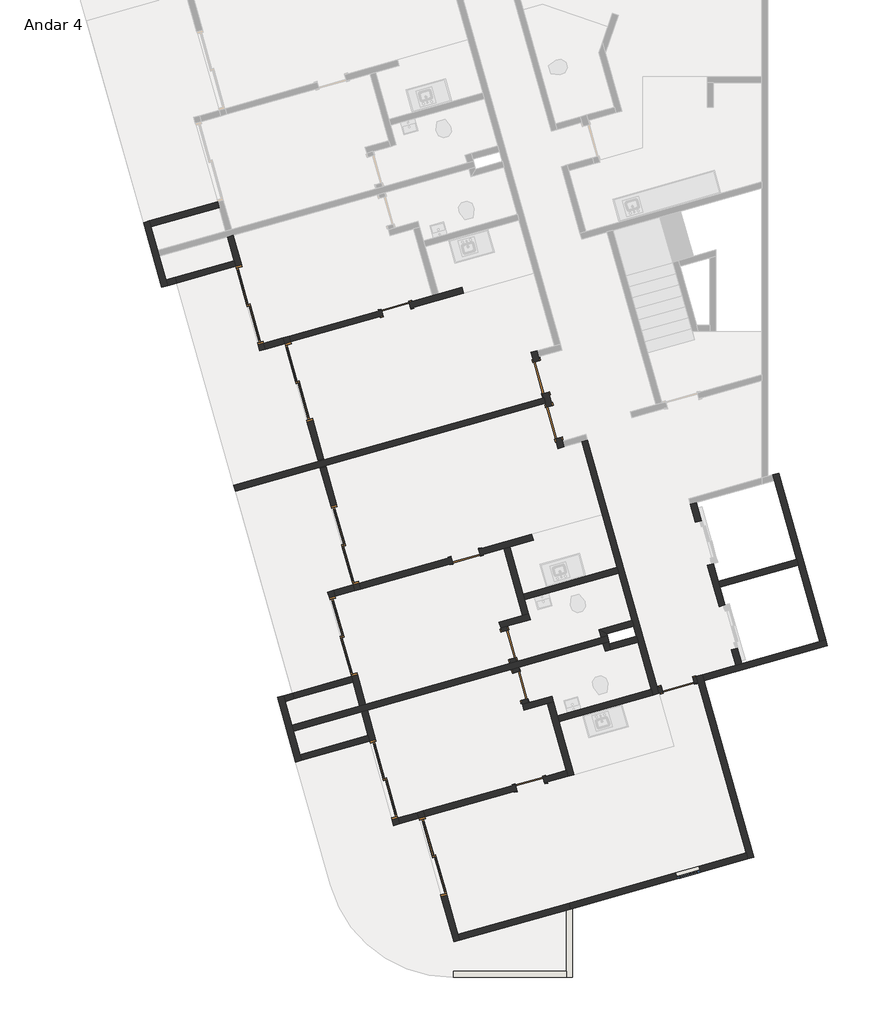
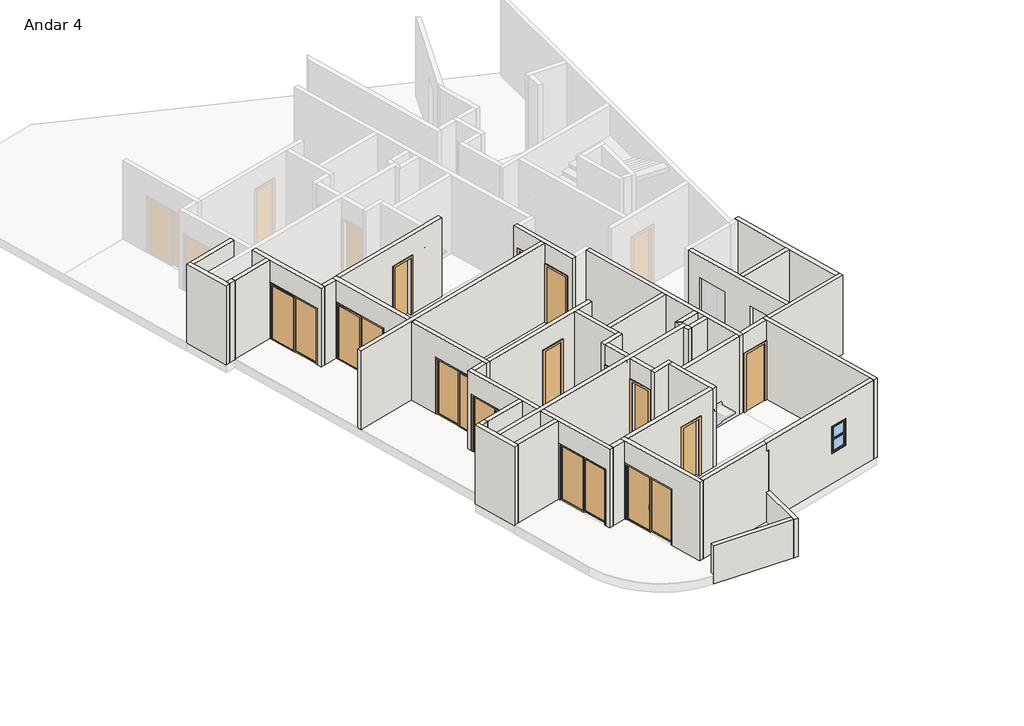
# One storey, part 1 of 3: 46 walls, 14 doors, 1 window.
"""IFC4 building model written with IfcOpenShell, lengths in millimetres."""

from ifc_helpers import new_model, si_unit, frame, origin, place, context, project, spatial, polyline, outline, extrude, faceted_brep, transform, mapped, element, save
from components import p2_80cm_9d4be4ef, p2_80cm_083652d6, p3_70cm_ef4d15e3, p3_70cm_0a698c7c, p4_correr_200cm_eaaa0877, p4_correr_200cm_830b8f20, bx_60cm_cef95a5c

model = new_model("IFC4")

# Units and contexts
model_context = context("Model", 3, world=origin())
ifc_project = project(units=[si_unit("LENGTHUNIT", "METRE", prefix="MILLI")], contexts=[model_context])

# Site, building, storey
site = spatial("IfcSite", under=ifc_project)
building = spatial("IfcBuilding", under=site)
storey = spatial("IfcBuildingStorey", under=building, Name="Andar 4", Elevation=62350.0)

# Doors
placement = place(None, origin())
p2_80cm_shape = p2_80cm_9d4be4ef(model_context)
element("IfcDoor", 1, ObjectType="M_Folha única1 : P2 - 80CM", at=placement, inside=storey, context=model_context, shape_type="MappedRepresentation", body=[
    mapped(p2_80cm_shape, transform((-80566.3456776, 19693.5423602, 62350.0), x_axis=(0.2717679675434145, -0.9623628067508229, 0.0), y_axis=(0.9623628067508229, 0.2717679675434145, 0.0), z_axis=(0.0, 0.0, 1.0))),
])
element("IfcDoor", 2, ObjectType="M_Folha única1 : P2 - 80CM", at=placement, inside=storey, context=model_context, shape_type="MappedRepresentation", body=[
    mapped(p2_80cm_shape, transform((-77213.6668366, 12144.847648, 62350.0), x_axis=(0.9623628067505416, 0.2717679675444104, 0.0), y_axis=(-0.2717679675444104, 0.9623628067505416, 0.0), z_axis=(0.0, 0.0, 1.0))),
])
p2_80cm_2_shape = p2_80cm_083652d6(model_context)
element("IfcDoor", 3, ObjectType="M_Folha única1 : P2 - 80CM", at=placement, inside=storey, context=model_context, shape_type="MappedRepresentation", body=[
    mapped(p2_80cm_2_shape, transform((-80253.8125149, 18586.8251325, 62350.0), x_axis=(-0.2717679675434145, 0.9623628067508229, 0.0), y_axis=(-0.9623628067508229, -0.2717679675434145, 0.0), z_axis=(0.0, 0.0, 1.0))),
])
p3_70cm_shape = p3_70cm_ef4d15e3(model_context)
element("IfcDoor", 4, ObjectType="M_Folha única1 : P3 - 70CM", at=placement, inside=storey, context=model_context, shape_type="MappedRepresentation", body=[
    mapped(p3_70cm_shape, transform((-84129.1775441, 21363.1168842, 62350.0), x_axis=(0.9623628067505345, 0.27176796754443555, 0.0), y_axis=(-0.27176796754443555, 0.9623628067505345, 0.0), z_axis=(0.0, 0.0, 1.0))),
])
element("IfcDoor", 5, ObjectType="M_Folha única1 : P3 - 70CM", at=placement, inside=storey, context=model_context, shape_type="MappedRepresentation", body=[
    mapped(p3_70cm_shape, transform((-80840.7851368, 9718.5269225, 62350.0), x_axis=(0.9623628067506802, 0.2717679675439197, 0.0), y_axis=(-0.2717679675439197, 0.9623628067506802, 0.0), z_axis=(0.0, 0.0, 1.0))),
])
element("IfcDoor", 6, ObjectType="M_Folha única1 : P3 - 70CM", at=placement, inside=storey, context=model_context, shape_type="MappedRepresentation", body=[
    mapped(p3_70cm_shape, transform((-81362.5862327, 13130.1209218, 62350.0), x_axis=(0.27176796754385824, -0.9623628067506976, 0.0), y_axis=(0.9623628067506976, 0.27176796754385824, 0.0), z_axis=(0.0, 0.0, 1.0))),
])
p3_70cm_2_shape = p3_70cm_0a698c7c(model_context)
element("IfcDoor", 7, ObjectType="M_Folha única1 : P3 - 70CM", at=placement, inside=storey, context=model_context, shape_type="MappedRepresentation", body=[
    mapped(p3_70cm_2_shape, transform((-81077.2298668, 12119.6399747, 62350.0), x_axis=(-0.27176796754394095, 0.9623628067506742, 0.0), y_axis=(-0.9623628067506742, -0.27176796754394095, 0.0), z_axis=(0.0, 0.0, 1.0))),
])
element("IfcDoor", 8, ObjectType="M_Folha única1 : P3 - 70CM", at=placement, inside=storey, context=model_context, shape_type="MappedRepresentation", body=[
    mapped(p3_70cm_2_shape, transform((-82417.0393485, 15300.2312016, 62350.0), x_axis=(0.9623628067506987, 0.2717679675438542, 0.0), y_axis=(-0.2717679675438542, 0.9623628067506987, 0.0), z_axis=(0.0, 0.0, 1.0))),
])
p4_correr_200cm_shape = p4_correr_200cm_eaaa0877(model_context)
element("IfcDoor", 9, ObjectType="Porta de correr dupla envidraçada sem revestimento : P4 - CORRER - 200CM", at=placement, inside=storey, context=model_context, shape_type="MappedRepresentation", body=[
    mapped(p4_correr_200cm_shape, transform((-86511.4049952, 19573.3416554, 62350.0), x_axis=(0.2717679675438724, -0.9623628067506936, 0.0), y_axis=(0.9623628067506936, 0.2717679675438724, 0.0), z_axis=(0.0, 0.0, 1.0))),
])
element("IfcDoor", 10, ObjectType="Porta de correr dupla envidraçada sem revestimento : P4 - CORRER - 200CM", at=placement, inside=storey, context=model_context, shape_type="MappedRepresentation", body=[
    mapped(p4_correr_200cm_shape, transform((-87717.4207223, 21466.8516126, 62350.0), x_axis=(0.2717679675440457, -0.9623628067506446, 0.0), y_axis=(0.9623628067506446, 0.2717679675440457, 0.0), z_axis=(0.0, 0.0, 1.0))),
])
element("IfcDoor", 11, ObjectType="Porta de correr dupla envidraçada sem revestimento : P4 - CORRER - 200CM", at=placement, inside=storey, context=model_context, shape_type="MappedRepresentation", body=[
    mapped(p4_correr_200cm_shape, transform((-84429.028315, 9822.2616509, 62350.0), x_axis=(-0.27176796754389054, 0.9623628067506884, 0.0), y_axis=(-0.9623628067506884, -0.27176796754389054, 0.0), z_axis=(0.0, 0.0, 1.0))),
])
element("IfcDoor", 12, ObjectType="Porta de correr dupla envidraçada sem revestimento : P4 - CORRER - 200CM", at=placement, inside=storey, context=model_context, shape_type="MappedRepresentation", body=[
    mapped(p4_correr_200cm_shape, transform((-83223.012588, 7928.7516937, 62350.0), x_axis=(-0.2717679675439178, 0.9623628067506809, 0.0), y_axis=(-0.9623628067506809, -0.2717679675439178, 0.0), z_axis=(0.0, 0.0, 1.0))),
])
p4_correr_200cm_2_shape = p4_correr_200cm_830b8f20(model_context)
element("IfcDoor", 13, ObjectType="Porta de correr dupla envidraçada sem revestimento : P4 - CORRER - 200CM", at=placement, inside=storey, context=model_context, shape_type="MappedRepresentation", body=[
    mapped(p4_correr_200cm_2_shape, transform((-85383.5679299, 15579.5360073, 62350.0), x_axis=(-0.2717679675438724, 0.9623628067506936, 0.0), y_axis=(-0.9623628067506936, -0.2717679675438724, 0.0), z_axis=(0.0, 0.0, 1.0))),
])
element("IfcDoor", 14, ObjectType="Porta de correr dupla envidraçada sem revestimento : P4 - CORRER - 200CM", at=placement, inside=storey, context=model_context, shape_type="MappedRepresentation", body=[
    mapped(p4_correr_200cm_2_shape, transform((-85420.9813965, 13334.8858955, 62350.0), x_axis=(-0.27176796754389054, 0.9623628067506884, 0.0), y_axis=(-0.9623628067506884, -0.27176796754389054, 0.0), z_axis=(0.0, 0.0, 1.0))),
])

# Walls
element("IfcWall", 15, ObjectType="Básica .15 - Externa", at=placement, inside=storey, context=model_context, shape_type="Brep", body=[
    faceted_brep([(-75344.9919691, 7919.3931149, 62350.0), (-76567.7484146, 12249.3196164, 62350.0), (-76608.5136097, 12393.6740374, 62350.0), (-76608.5136097, 12393.6740374, 65250.0), (-76567.7484146, 12249.3196164, 65250.0), (-75344.9919691, 7919.3931149, 65250.0), (-75489.3463901, 7878.6279198, 62350.0), (-75489.3463901, 7878.6279198, 65250.0), (-75530.1115852, 8022.9823408, 65250.0), (-76712.1028356, 12208.5544213, 65250.0), (-76752.8680308, 12352.9088423, 65250.0), (-76752.8680308, 12352.9088423, 62350.0), (-76712.1028356, 12208.5544213, 62350.0), (-75530.1115852, 8022.9823408, 62350.0)], [[[0, 1, 2, 3, 4, 5]], [[6, 7, 8, 9, 10, 11, 12, 13]], [[2, 1, 0, 6, 13, 12, 11]], [[5, 4, 3, 10, 9, 8, 7]], [[0, 5, 7, 6]], [[3, 2, 11, 10]]]),
])
element("IfcWall", 16, ObjectType="Básica .15 -  Interna", at=placement, inside=storey, context=model_context, shape_type="Brep", body=[
    faceted_brep([(-80529.815701, 19288.21464, 62350.0), (-80502.6389043, 19191.9783593, 62350.0), (-80461.8737092, 19047.6239383, 62350.0), (-80434.6969124, 18951.3876576, 62350.0), (-80434.6969124, 18951.3876576, 64450.0), (-80217.2825384, 18181.4974122, 64450.0), (-80217.2825384, 18181.4974122, 62350.0), (-80149.3405465, 17940.9067105, 62350.0), (-80149.3405465, 17940.9067105, 65250.0), (-80461.8737092, 19047.6239383, 65250.0), (-80502.6389043, 19191.9783593, 65250.0), (-80815.172067, 20298.695587, 65250.0), (-80815.172067, 20298.695587, 62350.0), (-80747.2300751, 20058.1048854, 62350.0), (-80747.2300751, 20058.1048854, 64450.0), (-80529.815701, 19288.21464, 64450.0), (-80290.3424914, 18992.1528527, 64450.0), (-80290.3424914, 18992.1528527, 62350.0), (-80385.46128, 19328.9798351, 62350.0), (-80385.46128, 19328.9798351, 64450.0), (-80602.8756541, 20098.8700805, 64450.0), (-80602.8756541, 20098.8700805, 62350.0), (-80630.0524508, 20195.1063612, 62350.0), (-80670.817646, 20339.4607822, 62350.0), (-80670.817646, 20339.4607822, 65250.0), (-80630.0524508, 20195.1063612, 65250.0), (-80045.7513206, 18126.0263266, 65250.0), (-80004.9861255, 17981.6719056, 65250.0), (-80004.9861255, 17981.6719056, 62350.0), (-80045.7513206, 18126.0263266, 62350.0), (-80072.9281174, 18222.2626073, 62350.0), (-80072.9281174, 18222.2626073, 64450.0)], [[[0, 1, 2, 3, 4, 5, 6, 7, 8, 9, 10, 11, 12, 13, 14, 15]], [[16, 17, 18, 19, 20, 21, 22, 23, 24, 25, 26, 27, 28, 29, 30, 31]], [[13, 12, 23, 22, 21]], [[18, 17, 3, 2, 1, 0]], [[30, 29, 28, 7, 6]], [[11, 10, 9, 8, 27, 26, 25, 24]], [[12, 11, 24, 23]], [[8, 7, 28, 27]], [[19, 18, 0, 15]], [[20, 19, 15, 14]], [[21, 20, 14, 13]], [[4, 3, 17, 16]], [[5, 4, 16, 31]], [[6, 5, 31, 30]]]),
])
element("IfcWall", 17, ObjectType="Básica .15 -  Interna", at=placement, inside=storey, context=model_context, shape_type="Brep", body=[
    faceted_brep([(-79571.9228624, 18103.967491, 62350.0), (-78702.2653663, 15024.4065094, 62350.0), (-78661.5001712, 14880.0520884, 62350.0), (-78335.3786101, 13725.2167203, 62350.0), (-78294.613415, 13580.8622993, 62350.0), (-78226.6714231, 13340.2715976, 62350.0), (-78185.906228, 13195.9171766, 62350.0), (-77818.8200634, 11896.0212586, 62350.0), (-77818.8200634, 11896.0212586, 65250.0), (-78185.906228, 13195.9171766, 65250.0), (-78226.6714231, 13340.2715976, 65250.0), (-78294.613415, 13580.8622993, 65250.0), (-78335.3786101, 13725.2167203, 65250.0), (-78661.5001712, 14880.0520884, 65250.0), (-78702.2653663, 15024.4065094, 65250.0), (-79571.9228624, 18103.967491, 65250.0), (-79427.5684414, 18144.7326862, 62350.0), (-79427.5684414, 18144.7326862, 65250.0), (-77715.2308375, 12081.1408747, 65250.0), (-77674.4656424, 11936.7864537, 65250.0), (-77674.4656424, 11936.7864537, 62350.0), (-77715.2308375, 12081.1408747, 62350.0)], [[[0, 1, 2, 3, 4, 5, 6, 7, 8, 9, 10, 11, 12, 13, 14, 15]], [[16, 17, 18, 19, 20, 21]], [[7, 6, 5, 4, 3, 2, 1, 0, 16, 21, 20]], [[15, 14, 13, 12, 11, 10, 9, 8, 19, 18, 17]], [[0, 15, 17, 16]], [[8, 7, 20, 19]]]),
])
element("IfcWall", 18, ObjectType="Básica .15 -  Interna", at=placement, inside=storey, context=model_context, shape_type="Brep", body=[
    faceted_brep([(-85017.5646639, 11630.3683862, 65250.0), (-85180.6254444, 12207.7860702, 65250.0), (-85221.3906395, 12352.1404912, 65250.0), (-85805.6917697, 14421.2205257, 65250.0), (-85805.6917697, 14421.2205257, 62350.0), (-85764.9265746, 14276.8661047, 62350.0), (-85764.9265746, 14276.8661047, 64450.0), (-85221.3906395, 12352.1404912, 64450.0), (-85221.3906395, 12352.1404912, 62350.0), (-85180.6254444, 12207.7860702, 62350.0), (-85017.5646639, 11630.3683862, 62350.0), (-85661.3373487, 14461.9857209, 65250.0), (-85620.5721536, 14317.6312998, 65250.0), (-84873.2102428, 11671.1335813, 65250.0), (-84873.2102428, 11671.1335813, 62350.0), (-85077.0362185, 12392.9056863, 62350.0), (-85077.0362185, 12392.9056863, 64450.0), (-85620.5721536, 14317.6312998, 64450.0), (-85620.5721536, 14317.6312998, 62350.0), (-85661.3373487, 14461.9857209, 62350.0)], [[[0, 1, 2, 3, 4, 5, 6, 7, 8, 9, 10]], [[11, 12, 13, 14, 15, 16, 17, 18, 19]], [[4, 19, 18, 5]], [[14, 10, 9, 8, 15]], [[3, 2, 1, 0, 13, 12, 11]], [[4, 3, 11, 19]], [[0, 10, 14, 13]], [[17, 6, 5, 18]], [[6, 17, 16, 7]], [[7, 16, 15, 8]]]),
])
element("IfcWall", 19, ObjectType="Básica .15 -  Interna", at=placement, inside=storey, context=model_context, shape_type="Brep", body=[
    faceted_brep([(-82710.8886682, 5839.2890616, 65250.0), (-83566.957766, 8870.7319029, 65250.0), (-83607.7229611, 9015.0863239, 65250.0), (-83607.7229611, 9015.0863239, 62350.0), (-83566.957766, 8870.7319029, 62350.0), (-83566.957766, 8870.7319029, 64450.0), (-83023.4218309, 6946.0062894, 64450.0), (-83023.4218309, 6946.0062894, 62350.0), (-82710.8886682, 5839.2890616, 62350.0), (-83463.3685401, 9055.851519, 65250.0), (-83422.603345, 8911.497098, 65250.0), (-82607.2994424, 6024.4086777, 65250.0), (-82566.5342472, 5880.0542567, 65250.0), (-82566.5342472, 5880.0542567, 62350.0), (-82607.2994424, 6024.4086777, 62350.0), (-82879.0674099, 6986.7714845, 62350.0), (-82879.0674099, 6986.7714845, 64450.0), (-83422.603345, 8911.497098, 64450.0), (-83422.603345, 8911.497098, 62350.0), (-83463.3685401, 9055.851519, 62350.0)], [[[0, 1, 2, 3, 4, 5, 6, 7, 8]], [[9, 10, 11, 12, 13, 14, 15, 16, 17, 18, 19]], [[3, 19, 18, 4]], [[13, 8, 7, 15, 14]], [[2, 1, 0, 12, 11, 10, 9]], [[3, 2, 9, 19]], [[0, 8, 13, 12]], [[17, 5, 4, 18]], [[5, 17, 16, 6]], [[6, 16, 15, 7]]]),
])
element("IfcWall", 20, ObjectType="Básica .15 -  Interna", at=placement, inside=storey, context=model_context, shape_type="Brep", body=[
    faceted_brep([(-86046.8404698, 17652.2925145, 62350.0), (-86046.8404698, 17652.2925145, 65250.0), (-86855.3501733, 20515.3218646, 65250.0), (-86896.1153684, 20659.6762856, 65250.0), (-86896.1153684, 20659.6762856, 62350.0), (-86855.3501733, 20515.3218646, 62350.0), (-86855.3501733, 20515.3218646, 64450.0), (-86311.8142382, 18590.596251, 64450.0), (-86311.8142382, 18590.596251, 62350.0), (-85902.4860488, 17693.0577096, 65250.0), (-85902.4860488, 17693.0577096, 62350.0), (-86167.4598172, 18631.3614462, 62350.0), (-86167.4598172, 18631.3614462, 64450.0), (-86710.9957523, 20556.0870597, 64450.0), (-86710.9957523, 20556.0870597, 62350.0), (-86751.7609474, 20700.4414807, 62350.0), (-86751.7609474, 20700.4414807, 65250.0), (-86710.9957523, 20556.0870597, 65250.0)], [[[0, 1, 2, 3, 4, 5, 6, 7, 8]], [[9, 10, 11, 12, 13, 14, 15, 16, 17]], [[10, 0, 8, 11]], [[4, 15, 14, 5]], [[1, 0, 10, 9]], [[3, 2, 1, 9, 17, 16]], [[4, 3, 16, 15]], [[7, 12, 11, 8]], [[12, 7, 6, 13]], [[13, 6, 5, 14]]]),
])
element("IfcWall", 21, ObjectType="Básica .15 - Externa", at=placement, inside=storey, context=model_context, shape_type="Brep", body=[
    faceted_brep([(-79945.4990038, 6620.2256515, 63450.0), (-79945.4990038, 6620.2256515, 62350.0), (-79945.4990038, 6620.2256515, 62050.0), (-79945.4990038, 5119.4122055, 62050.0), (-79945.4990038, 4969.4122055, 62050.0), (-79945.4990038, 4969.4122055, 63450.0), (-79945.4990038, 5119.4122055, 63450.0), (-79795.4990038, 6662.5851389, 62050.0), (-79795.4990038, 6662.5851389, 63450.0), (-79795.4990038, 4969.4122055, 63450.0), (-79795.4990038, 4969.4122055, 62050.0), (-79850.1164062, 6647.1613711, 62050.0)], [[[0, 1, 2, 3, 4, 5, 6]], [[7, 8, 9, 10]], [[4, 3, 2, 11, 7, 10]], [[0, 6, 5, 9, 8]], [[5, 4, 10, 9]], [[0, 8, 7, 11, 2, 1]]]),
])
element("IfcWall", 22, ObjectType="Básica .15 - Externa", at=placement, inside=storey, context=model_context, shape_type="SweptSolid", body=[
    extrude(outline(polyline([(-82713.5540687, 5119.4122055), (-79945.4990038, 5119.4122055), (-79945.4990038, 4969.4122055), (-82713.5540687, 4969.4122055), (-82713.5540687, 5119.4122055)])), frame((0.0, 0.0, 62050.0), z_axis=(0.0, 0.0, 1.0), x_axis=(1.0, 0.0, 0.0)), (0.0, 0.0, 1.0), 1400.0),
])
element("IfcWall", 23, ObjectType="Básica .15 - Externa", at=placement, inside=storey, context=model_context, shape_type="Brep", body=[
    faceted_brep([(-73581.8825825, 13248.3842954, 62350.0), (-73726.2370035, 13207.6191002, 62350.0), (-75646.150803, 12665.442005, 62350.0), (-75790.505224, 12624.6768098, 62350.0), (-76608.5136097, 12393.6740374, 62350.0), (-76608.5136097, 12393.6740374, 65250.0), (-75790.505224, 12624.6768098, 65250.0), (-75646.150803, 12665.442005, 65250.0), (-73726.2370035, 13207.6191002, 65250.0), (-73581.8825825, 13248.3842954, 65250.0), (-73541.1173874, 13104.0298743, 62350.0), (-73541.1173874, 13104.0298743, 65250.0), (-76567.7484146, 12249.3196164, 65250.0), (-76567.7484146, 12249.3196164, 62350.0)], [[[0, 1, 2, 3, 4, 5, 6, 7, 8, 9]], [[10, 11, 12, 13]], [[4, 3, 2, 1, 0, 10, 13]], [[9, 8, 7, 6, 5, 12, 11]], [[0, 9, 11, 10]], [[5, 4, 13, 12]]]),
])
element("IfcWall", 24, ObjectType="Básica .15 - Externa", at=placement, inside=storey, context=model_context, shape_type="Brep", body=[
    faceted_brep([(-74881.2508656, 17297.6610289, 62350.0), (-74840.4856705, 17153.3066079, 62350.0), (-74296.9497354, 15228.5809944, 62350.0), (-74256.1845402, 15084.2265734, 62350.0), (-73726.2370035, 13207.6191002, 62350.0), (-73726.2370035, 13207.6191002, 65250.0), (-74256.1845402, 15084.2265734, 65250.0), (-74296.9497354, 15228.5809944, 65250.0), (-74840.4856705, 17153.3066079, 65250.0), (-74881.2508656, 17297.6610289, 65250.0), (-74736.8964446, 17338.426224, 62350.0), (-74736.8964446, 17338.426224, 65250.0), (-73581.8825825, 13248.3842954, 65250.0), (-73581.8825825, 13248.3842954, 62350.0)], [[[0, 1, 2, 3, 4, 5, 6, 7, 8, 9]], [[10, 11, 12, 13]], [[4, 3, 2, 1, 0, 10, 13]], [[9, 8, 7, 6, 5, 12, 11]], [[0, 9, 11, 10]], [[5, 4, 13, 12]]]),
])
element("IfcWall", 25, ObjectType="Básica .15 -  Interna", at=placement, inside=storey, context=model_context, shape_type="Brep", body=[
    faceted_brep([(-76483.167581, 15077.4768805, 62350.0), (-76197.8112151, 14066.9959334, 62350.0), (-76197.8112151, 14066.9959334, 64475.0), (-75898.8664508, 13008.396846, 64475.0), (-75898.8664508, 13008.396846, 62350.0), (-75790.505224, 12624.6768098, 62350.0), (-75790.505224, 12624.6768098, 65250.0), (-76904.7538909, 16570.3643175, 65250.0), (-76904.7538909, 16570.3643175, 62350.0), (-76782.1123453, 16136.075968, 62350.0), (-76782.1123453, 16136.075968, 64475.0), (-76483.167581, 15077.4768805, 64475.0), (-76053.4567941, 14107.7611286, 64475.0), (-76053.4567941, 14107.7611286, 62350.0), (-76176.0983397, 14542.0494781, 62350.0), (-76216.8635348, 14686.4038991, 62350.0), (-76338.81316, 15118.2420757, 62350.0), (-76338.81316, 15118.2420757, 64475.0), (-76637.7579243, 16176.8411631, 64475.0), (-76637.7579243, 16176.8411631, 62350.0), (-76760.3994699, 16611.1295126, 62350.0), (-76760.3994699, 16611.1295126, 65250.0), (-76216.8635348, 14686.4038991, 65250.0), (-76176.0983397, 14542.0494781, 65250.0), (-75646.150803, 12665.442005, 65250.0), (-75646.150803, 12665.442005, 62350.0), (-75754.5120298, 13049.1620412, 62350.0), (-75754.5120298, 13049.1620412, 64475.0)], [[[0, 1, 2, 3, 4, 5, 6, 7, 8, 9, 10, 11]], [[12, 13, 14, 15, 16, 17, 18, 19, 20, 21, 22, 23, 24, 25, 26, 27]], [[9, 8, 20, 19]], [[26, 25, 5, 4]], [[16, 15, 14, 13, 1, 0]], [[7, 6, 24, 23, 22, 21]], [[8, 7, 21, 20]], [[6, 5, 25, 24]], [[4, 3, 27, 26]], [[2, 1, 13, 12]], [[3, 2, 12, 27]], [[19, 18, 10, 9]], [[17, 16, 0, 11]], [[18, 17, 11, 10]]]),
])
element("IfcWall", 26, ObjectType="Básica .15 -  Interna", at=placement, inside=storey, context=model_context, shape_type="SweptSolid", body=[
    extrude(outline(polyline([(-74256.1845402, 15084.2265734), (-76176.0983397, 14542.0494781), (-76216.8635348, 14686.4038991), (-74296.9497354, 15228.5809944), (-74256.1845402, 15084.2265734)])), frame((0.0, 0.0, 62350.0), z_axis=(0.0, 0.0, 1.0), x_axis=(1.0, 0.0, 0.0)), (0.0, 0.0, 1.0), 2900.0),
])
element("IfcWall", 27, ObjectType="Básica .15 -  Interna", at=placement, inside=storey, context=model_context, shape_type="Brep", body=[
    faceted_brep([(-82566.5342472, 5880.0542567, 62350.0), (-79945.4990038, 6620.2256515, 62350.0), (-79850.1164062, 6647.1613711, 62350.0), (-79850.1164062, 6647.1613711, 64950.0), (-79945.4990038, 6620.2256515, 64950.0), (-79945.4990038, 6620.2256515, 65250.0), (-82566.5342472, 5880.0542567, 65250.0), (-82607.2994424, 6024.4086777, 62350.0), (-82607.2994424, 6024.4086777, 65250.0), (-79945.4990038, 6776.0920243, 65250.0), (-79945.4990038, 6776.0920243, 64950.0), (-79890.8816014, 6791.5157921, 64950.0), (-79890.8816014, 6791.5157921, 62350.0), (-79945.4990038, 6776.0920243, 62350.0)], [[[0, 1, 2, 3, 4, 5, 6]], [[7, 8, 9, 10, 11, 12, 13]], [[2, 1, 0, 7, 13, 12]], [[6, 5, 9, 8]], [[0, 6, 8, 7]], [[2, 12, 11, 3]], [[10, 4, 3, 11]], [[5, 4, 10, 9]]]),
])
element("IfcWall", 28, ObjectType="Básica .15 -  Interna", at=placement, inside=storey, context=model_context, shape_type="Brep", body=[
    faceted_brep([(-85221.3906395, 12352.1404912, 62350.0), (-86668.7560772, 11943.4094383, 62350.0), (-86668.7560772, 11943.4094383, 65250.0), (-85221.3906395, 12352.1404912, 65250.0), (-85221.3906395, 12352.1404912, 64450.0), (-85180.6254444, 12207.7860702, 62350.0), (-85180.6254444, 12207.7860702, 65250.0), (-86627.9908821, 11799.0550173, 65250.0), (-86627.9908821, 11799.0550173, 62350.0)], [[[0, 1, 2, 3, 4]], [[5, 6, 7, 8]], [[1, 0, 5, 8]], [[2, 1, 8, 7]], [[3, 2, 7, 6]], [[0, 4, 3, 6, 5]]]),
])
element("IfcWall", 29, ObjectType="Básica .15 - Externa", at=placement, inside=storey, context=model_context, shape_type="Brep", body=[
    faceted_brep([(-86444.4738537, 10292.215871, 62350.0), (-86485.2390488, 10436.570292, 62350.0), (-86648.2998293, 11013.987976, 62350.0), (-86689.0650245, 11158.342397, 62350.0), (-86852.125805, 11735.7600811, 62350.0), (-86892.8910001, 11880.1145021, 62350.0), (-86892.8910001, 11880.1145021, 65250.0), (-86852.125805, 11735.7600811, 65250.0), (-86689.0650245, 11158.342397, 65250.0), (-86648.2998293, 11013.987976, 65250.0), (-86485.2390488, 10436.570292, 65250.0), (-86444.4738537, 10292.215871, 65250.0), (-86588.8282747, 10251.4506758, 62350.0), (-86588.8282747, 10251.4506758, 65250.0), (-87037.2454211, 11839.349307, 65250.0), (-87037.2454211, 11839.349307, 62350.0)], [[[0, 1, 2, 3, 4, 5, 6, 7, 8, 9, 10, 11]], [[12, 13, 14, 15]], [[5, 4, 3, 2, 1, 0, 12, 15]], [[11, 10, 9, 8, 7, 6, 14, 13]], [[6, 5, 15, 14]], [[0, 11, 13, 12]]]),
])
element("IfcWall", 30, ObjectType="Básica .15 -  Interna", at=placement, inside=storey, context=model_context, shape_type="Brep", body=[
    faceted_brep([(-86444.4738537, 10292.215871, 62350.0), (-84772.9734931, 10764.2418601, 62350.0), (-84772.9734931, 10764.2418601, 64450.0), (-84772.9734931, 10764.2418601, 65250.0), (-86444.4738537, 10292.215871, 65250.0), (-86485.2390488, 10436.570292, 62350.0), (-86485.2390488, 10436.570292, 65250.0), (-84813.7386882, 10908.5962811, 65250.0), (-84813.7386882, 10908.5962811, 62350.0)], [[[0, 1, 2, 3, 4]], [[5, 6, 7, 8]], [[1, 0, 5, 8]], [[4, 3, 7, 6]], [[0, 4, 6, 5]], [[3, 2, 1, 8, 7]]]),
])
element("IfcWall", 31, ObjectType="Básica .15 - Externa", at=placement, inside=storey, context=model_context, shape_type="Brep", body=[
    faceted_brep([(-89732.866261, 21936.8058326, 62350.0), (-89773.6314561, 22081.1602536, 62350.0), (-89936.6922366, 22658.5779377, 62350.0), (-89977.4574318, 22802.9323587, 62350.0), (-90140.5182123, 23380.3500428, 62350.0), (-90181.2834074, 23524.7044638, 62350.0), (-90181.2834074, 23524.7044638, 65250.0), (-90140.5182123, 23380.3500428, 65250.0), (-89977.4574318, 22802.9323587, 65250.0), (-89936.6922366, 22658.5779377, 65250.0), (-89773.6314561, 22081.1602536, 65250.0), (-89732.866261, 21936.8058326, 65250.0), (-89877.220682, 21896.0406375, 62350.0), (-89877.220682, 21896.0406375, 65250.0), (-90325.6378284, 23483.9392686, 65250.0), (-90325.6378284, 23483.9392686, 62350.0)], [[[0, 1, 2, 3, 4, 5, 6, 7, 8, 9, 10, 11]], [[12, 13, 14, 15]], [[5, 4, 3, 2, 1, 0, 12, 15]], [[11, 10, 9, 8, 7, 6, 14, 13]], [[0, 11, 13, 12]], [[6, 5, 15, 14]]]),
])
element("IfcWall", 32, ObjectType="Básica .15 -  Interna", at=placement, inside=storey, context=model_context, shape_type="Brep", body=[
    faceted_brep([(-88102.1310955, 22553.1862428, 62350.0), (-89549.4965332, 22144.4551899, 62350.0), (-89549.4965332, 22144.4551899, 65250.0), (-88102.1310955, 22553.1862428, 65250.0), (-88061.3659003, 22408.8318218, 62350.0), (-88061.3659003, 22408.8318218, 64450.0), (-88061.3659003, 22408.8318218, 65250.0), (-89508.731338, 22000.1007688, 65250.0), (-89508.731338, 22000.1007688, 62350.0)], [[[0, 1, 2, 3]], [[4, 5, 6, 7, 8]], [[1, 0, 4, 8]], [[2, 1, 8, 7]], [[3, 2, 7, 6]], [[0, 3, 6, 5, 4]]]),
])
element("IfcWall", 33, ObjectType="Básica .15 -  Interna", at=placement, inside=storey, context=model_context, shape_type="Brep", body=[
    faceted_brep([(-90140.5182123, 23380.3500428, 62350.0), (-88469.0178517, 23852.3760319, 62350.0), (-88469.0178517, 23852.3760319, 65250.0), (-90140.5182123, 23380.3500428, 65250.0), (-90181.2834074, 23524.7044638, 62350.0), (-90181.2834074, 23524.7044638, 65250.0), (-88509.7830468, 23996.7304529, 65250.0), (-88509.7830468, 23996.7304529, 64450.0), (-88509.7830468, 23996.7304529, 62350.0)], [[[0, 1, 2, 3]], [[4, 5, 6, 7, 8]], [[1, 0, 4, 8]], [[3, 2, 6, 5]], [[0, 3, 5, 4]], [[2, 1, 8, 7, 6]]]),
])
element("IfcWall", 34, ObjectType="Básica .15 -  Interna", at=placement, inside=storey, context=model_context, shape_type="Brep", body=[
    faceted_brep([(-86896.1153684, 20659.6762856, 62350.0), (-87373.4755442, 20524.8714034, 62350.0), (-87373.4755442, 20524.8714034, 64450.0), (-87373.4755442, 20524.8714034, 65250.0), (-86896.1153684, 20659.6762856, 65250.0), (-86855.3501733, 20515.3218646, 62350.0), (-86855.3501733, 20515.3218646, 64450.0), (-86855.3501733, 20515.3218646, 65250.0), (-87332.7103491, 20380.5169824, 65250.0), (-87332.7103491, 20380.5169824, 62350.0)], [[[0, 1, 2, 3, 4]], [[5, 6, 7, 8, 9]], [[1, 0, 5, 9]], [[4, 3, 8, 7]], [[0, 4, 7, 6, 5]], [[3, 2, 1, 9, 8]]]),
])
element("IfcWall", 35, ObjectType="Básica .15 -  Interna", at=placement, inside=storey, context=model_context, shape_type="Brep", body=[
    faceted_brep([(-83607.7229611, 9015.0863239, 62350.0), (-84085.083137, 8880.2814417, 62350.0), (-84085.083137, 8880.2814417, 64450.0), (-84085.083137, 8880.2814417, 65250.0), (-83607.7229611, 9015.0863239, 65250.0), (-83566.957766, 8870.7319029, 62350.0), (-83566.957766, 8870.7319029, 64450.0), (-83566.957766, 8870.7319029, 65250.0), (-84044.3179418, 8735.9270207, 65250.0), (-84044.3179418, 8735.9270207, 62350.0)], [[[0, 1, 2, 3, 4]], [[5, 6, 7, 8, 9]], [[1, 0, 5, 9]], [[4, 3, 8, 7]], [[3, 2, 1, 9, 8]], [[0, 4, 7, 6, 5]]]),
])
element("IfcWall", 36, ObjectType="Básica .15 -  Interna", at=placement, inside=storey, context=model_context, shape_type="Brep", body=[
    faceted_brep([(-85183.9771729, 14596.790603, 62350.0), (-85661.3373487, 14461.9857209, 62350.0), (-85661.3373487, 14461.9857209, 65250.0), (-85183.9771729, 14596.790603, 65250.0), (-85183.9771729, 14596.790603, 64450.0), (-85143.2119778, 14452.436182, 62350.0), (-85143.2119778, 14452.436182, 65250.0), (-85620.5721536, 14317.6312998, 65250.0), (-85620.5721536, 14317.6312998, 64450.0), (-85620.5721536, 14317.6312998, 62350.0)], [[[0, 1, 2, 3, 4]], [[5, 6, 7, 8, 9]], [[1, 0, 5, 9]], [[3, 2, 7, 6]], [[2, 1, 9, 8, 7]], [[0, 4, 3, 6, 5]]]),
])
element("IfcWall", 37, ObjectType="Básica .15 -  Interna", at=placement, inside=storey, context=model_context, shape_type="Brep", body=[
    faceted_brep([(-87477.0647701, 20339.7517872, 65250.0), (-88061.3659003, 22408.8318218, 65250.0), (-88102.1310955, 22553.1862428, 65250.0), (-88265.191876, 23130.6039268, 65250.0), (-88265.191876, 23130.6039268, 62350.0), (-88102.1310955, 22553.1862428, 62350.0), (-88061.3659003, 22408.8318218, 62350.0), (-88061.3659003, 22408.8318218, 64450.0), (-87517.8299653, 20484.1062083, 64450.0), (-87517.8299653, 20484.1062083, 62350.0), (-87477.0647701, 20339.7517872, 62350.0), (-88120.837455, 23171.369122, 65250.0), (-87373.4755442, 20524.8714034, 65250.0), (-87332.7103491, 20380.5169824, 65250.0), (-87332.7103491, 20380.5169824, 62350.0), (-87373.4755442, 20524.8714034, 62350.0), (-87373.4755442, 20524.8714034, 64450.0), (-87917.0114793, 22449.5970169, 64450.0), (-87917.0114793, 22449.5970169, 62350.0), (-88120.837455, 23171.369122, 62350.0)], [[[0, 1, 2, 3, 4, 5, 6, 7, 8, 9, 10]], [[11, 12, 13, 14, 15, 16, 17, 18, 19]], [[14, 10, 9, 15]], [[4, 19, 18, 6, 5]], [[3, 2, 1, 0, 13, 12, 11]], [[0, 10, 14, 13]], [[4, 3, 11, 19]], [[8, 16, 15, 9]], [[16, 8, 7, 17]], [[17, 7, 6, 18]]]),
])
element("IfcWall", 38, ObjectType="Básica .15 -  Interna", at=placement, inside=storey, context=model_context, shape_type="Brep", body=[
    faceted_brep([(-85143.2119778, 14452.436182, 65250.0), (-85183.9771729, 14596.790603, 65250.0), (-85992.4868763, 17459.8199531, 65250.0), (-85992.4868763, 17459.8199531, 62350.0), (-85727.513108, 16521.5162165, 62350.0), (-85727.513108, 16521.5162165, 64450.0), (-85183.9771729, 14596.790603, 64450.0), (-85183.9771729, 14596.790603, 62350.0), (-85143.2119778, 14452.436182, 62350.0), (-85848.1324553, 17500.5851482, 65250.0), (-85039.6227519, 14637.5557982, 65250.0), (-84998.8575568, 14493.2013772, 65250.0), (-84998.8575568, 14493.2013772, 62350.0), (-85039.6227519, 14637.5557982, 62350.0), (-85039.6227519, 14637.5557982, 64450.0), (-85583.158687, 16562.2814117, 64450.0), (-85583.158687, 16562.2814117, 62350.0), (-85848.1324553, 17500.5851482, 62350.0)], [[[0, 1, 2, 3, 4, 5, 6, 7, 8]], [[9, 10, 11, 12, 13, 14, 15, 16, 17]], [[3, 17, 16, 4]], [[12, 8, 7, 13]], [[2, 1, 0, 11, 10, 9]], [[3, 2, 9, 17]], [[0, 8, 12, 11]], [[15, 5, 4, 16]], [[5, 15, 14, 6]], [[6, 14, 13, 7]]]),
])
element("IfcWall", 39, ObjectType="Básica .15 -  Interna", at=placement, inside=storey, context=model_context, shape_type="SweptSolid", body=[
    extrude(outline(polyline([(-80461.8737092, 19047.6239383), (-88068.36111, 16899.5778931), (-88109.1263052, 17043.9323141), (-80502.6389043, 19191.9783593), (-80461.8737092, 19047.6239383)])), frame((0.0, 0.0, 62350.0), z_axis=(0.0, 0.0, 1.0), x_axis=(1.0, 0.0, 0.0)), (0.0, 0.0, 1.0), 2900.0),
])
element("IfcWall", 40, ObjectType="Básica .15 -  Interna", at=placement, inside=storey, context=model_context, shape_type="Brep", body=[
    faceted_brep([(-78945.0553533, 13345.2242614, 62350.0), (-81168.1134369, 12717.4402563, 62350.0), (-81312.4678579, 12676.6750612, 62350.0), (-84873.2102428, 11671.1335813, 62350.0), (-85017.5646639, 11630.3683862, 62350.0), (-86689.0650245, 11158.342397, 62350.0), (-86689.0650245, 11158.342397, 65250.0), (-85017.5646639, 11630.3683862, 65250.0), (-84873.2102428, 11671.1335813, 65250.0), (-81312.4678579, 12676.6750612, 65250.0), (-81168.1134369, 12717.4402563, 65250.0), (-78945.0553533, 13345.2242614, 65250.0), (-78904.2901581, 13200.8698403, 62350.0), (-78904.2901581, 13200.8698403, 65250.0), (-81127.3482417, 12573.0858353, 65250.0), (-81271.7026627, 12532.3206402, 65250.0), (-84832.4450477, 11526.7791603, 65250.0), (-84976.7994687, 11486.0139651, 65250.0), (-86648.2998293, 11013.987976, 65250.0), (-86648.2998293, 11013.987976, 62350.0), (-84976.7994687, 11486.0139651, 62350.0), (-84832.4450477, 11526.7791603, 62350.0), (-81271.7026627, 12532.3206402, 62350.0), (-81127.3482417, 12573.0858353, 62350.0)], [[[0, 1, 2, 3, 4, 5, 6, 7, 8, 9, 10, 11]], [[12, 13, 14, 15, 16, 17, 18, 19, 20, 21, 22, 23]], [[5, 4, 3, 2, 1, 0, 12, 23, 22, 21, 20, 19]], [[11, 10, 9, 8, 7, 6, 18, 17, 16, 15, 14, 13]], [[0, 11, 13, 12]], [[6, 5, 19, 18]]]),
])
element("IfcWall", 41, ObjectType="Básica .15 -  Interna", at=placement, inside=storey, context=model_context, shape_type="Brep", body=[
    faceted_brep([(-84188.6723628, 8695.1618256, 65250.0), (-84772.9734931, 10764.2418601, 65250.0), (-84813.7386882, 10908.5962811, 65250.0), (-84976.7994687, 11486.0139651, 65250.0), (-84976.7994687, 11486.0139651, 62350.0), (-84813.7386882, 10908.5962811, 62350.0), (-84772.9734931, 10764.2418601, 62350.0), (-84772.9734931, 10764.2418601, 64450.0), (-84229.437558, 8839.5162466, 64450.0), (-84229.437558, 8839.5162466, 62350.0), (-84188.6723628, 8695.1618256, 62350.0), (-84832.4450477, 11526.7791603, 65250.0), (-84085.083137, 8880.2814417, 65250.0), (-84044.3179418, 8735.9270207, 65250.0), (-84044.3179418, 8735.9270207, 62350.0), (-84085.083137, 8880.2814417, 62350.0), (-84085.083137, 8880.2814417, 64450.0), (-84628.6190721, 10805.0070552, 64450.0), (-84628.6190721, 10805.0070552, 62350.0), (-84832.4450477, 11526.7791603, 62350.0)], [[[0, 1, 2, 3, 4, 5, 6, 7, 8, 9, 10]], [[11, 12, 13, 14, 15, 16, 17, 18, 19]], [[14, 10, 9, 15]], [[4, 19, 18, 6, 5]], [[3, 2, 1, 0, 13, 12, 11]], [[0, 10, 14, 13]], [[4, 3, 11, 19]], [[17, 7, 6, 18]], [[7, 17, 16, 8]], [[8, 16, 15, 9]]]),
])
element("IfcWall", 42, ObjectType="Básica .15 - Externa", at=placement, inside=storey, context=model_context, shape_type="Brep", body=[
    faceted_brep([(-79850.1164062, 6647.1613711, 64950.0), (-79850.1164062, 6647.1613711, 62350.0), (-75489.3463901, 7878.6279198, 62350.0), (-75489.3463901, 7878.6279198, 65250.0), (-79850.1164062, 6647.1613711, 65250.0), (-79945.4990038, 6620.2256515, 65250.0), (-79945.4990038, 6620.2256515, 64950.0), (-76649.6431667, 7550.9640756, 63450.0), (-77227.0608508, 7387.9032951, 63450.0), (-77227.0608508, 7387.9032951, 64450.0), (-76649.6431667, 7550.9640756, 64450.0), (-79890.8816014, 6791.5157921, 62350.0), (-79890.8816014, 6791.5157921, 64950.0), (-79945.4990038, 6776.0920243, 64950.0), (-79945.4990038, 6776.0920243, 65250.0), (-79890.8816014, 6791.5157921, 65250.0), (-75530.1115852, 8022.9823408, 65250.0), (-75530.1115852, 8022.9823408, 62350.0), (-76690.4083619, 7695.3184966, 63450.0), (-76690.4083619, 7695.3184966, 64450.0), (-77267.8260459, 7532.2577161, 64450.0), (-77267.8260459, 7532.2577161, 63450.0)], [[[0, 1, 2, 3, 4, 5, 6], [7, 8, 9, 10]], [[11, 12, 13, 14, 15, 16, 17], [18, 19, 20, 21]], [[2, 1, 11, 17]], [[5, 4, 3, 16, 15, 14]], [[18, 21, 8, 7]], [[21, 20, 9, 8]], [[20, 19, 10, 9]], [[19, 18, 7, 10]], [[3, 2, 17, 16]], [[0, 12, 11, 1]], [[6, 13, 12, 0]], [[6, 5, 14, 13]]]),
])
element("IfcWall", 43, ObjectType="Básica .15 - Externa", at=placement, inside=storey, context=model_context, shape_type="SweptSolid", body=[
    extrude(outline(polyline([(-89773.6314561, 22081.1602536), (-89549.4965332, 22144.4551899), (-89508.731338, 22000.1007688), (-89732.866261, 21936.8058326), (-89773.6314561, 22081.1602536)])), frame((0.0, 0.0, 62350.0), z_axis=(0.0, 0.0, 1.0), x_axis=(1.0, 0.0, 0.0)), (0.0, 0.0, 1.0), 2900.0),
])
element("IfcWall", 44, ObjectType="Básica .15 - Externa", at=placement, inside=storey, context=model_context, shape_type="SweptSolid", body=[
    extrude(outline(polyline([(-86892.8910001, 11880.1145021), (-86668.7560772, 11943.4094383), (-86627.9908821, 11799.0550173), (-86852.125805, 11735.7600811), (-86892.8910001, 11880.1145021)])), frame((0.0, 0.0, 62350.0), z_axis=(0.0, 0.0, 1.0), x_axis=(1.0, 0.0, 0.0)), (0.0, 0.0, 1.0), 2900.0),
])
element("IfcWall", 45, ObjectType="Básica .15 -  Interna", at=placement, inside=storey, context=model_context, shape_type="Brep", body=[
    faceted_brep([(-82513.5433702, 21897.2996395, 62350.0), (-83090.9610542, 21734.238859, 62350.0), (-83235.3154752, 21693.4736638, 62350.0), (-83812.7331593, 21530.4128833, 62350.0), (-83812.7331593, 21530.4128833, 64450.0), (-84486.387124, 21340.175306, 64450.0), (-84486.387124, 21340.175306, 62350.0), (-86751.7609474, 20700.4414807, 62350.0), (-86751.7609474, 20700.4414807, 65250.0), (-83235.3154752, 21693.4736638, 65250.0), (-83090.9610542, 21734.238859, 65250.0), (-82513.5433702, 21897.2996395, 65250.0), (-83771.9679641, 21386.0584623, 64450.0), (-83771.9679641, 21386.0584623, 62350.0), (-82472.778175, 21752.9452185, 62350.0), (-82472.778175, 21752.9452185, 65250.0), (-86710.9957523, 20556.0870597, 65250.0), (-86710.9957523, 20556.0870597, 64450.0), (-86710.9957523, 20556.0870597, 62350.0), (-84445.6219289, 21195.820885, 62350.0), (-84445.6219289, 21195.820885, 64450.0)], [[[0, 1, 2, 3, 4, 5, 6, 7, 8, 9, 10, 11]], [[12, 13, 14, 15, 16, 17, 18, 19, 20]], [[19, 18, 7, 6]], [[14, 13, 3, 2, 1, 0]], [[11, 10, 9, 8, 16, 15]], [[0, 11, 15, 14]], [[4, 3, 13, 12]], [[5, 4, 12, 20]], [[6, 5, 20, 19]], [[8, 7, 18, 17, 16]]]),
])
element("IfcWall", 46, ObjectType="Básica .15 -  Interna", at=placement, inside=storey, context=model_context, shape_type="SweptSolid", body=[
    extrude(outline(polyline([(-80169.4554031, 11388.8386864), (-77859.7846669, 12041.0818085), (-77819.0194718, 11896.7273875), (-80128.690208, 11244.4842654), (-80169.4554031, 11388.8386864)])), frame((0.0, 0.0, 62350.0), z_axis=(0.0, 0.0, 1.0), x_axis=(1.0, 0.0, 0.0)), (0.0, 0.0, 1.0), 2900.0),
])
element("IfcWall", 47, ObjectType="Básica .15 -  Interna", at=placement, inside=storey, context=model_context, shape_type="SweptSolid", body=[
    extrude(outline(polyline([(-78185.906228, 13195.9171766), (-78849.9365646, 13008.397279), (-78890.7017597, 13152.7517), (-78226.6714231, 13340.2715976), (-78185.906228, 13195.9171766)])), frame((0.0, 0.0, 62350.0), z_axis=(0.0, 0.0, 1.0), x_axis=(1.0, 0.0, 0.0)), (0.0, 0.0, 1.0), 2900.0),
])
element("IfcWall", 48, ObjectType="Básica .15 -  Interna", at=placement, inside=storey, context=model_context, shape_type="Brep", body=[
    faceted_brep([(-80986.3462968, 11521.8396931, 62350.0), (-80408.9286128, 11684.9004736, 62350.0), (-80264.5741917, 11725.6656688, 62350.0), (-80264.5741917, 11725.6656688, 65250.0), (-80408.9286128, 11684.9004736, 65250.0), (-80986.3462968, 11521.8396931, 65250.0), (-81027.1114919, 11666.1941141, 62350.0), (-81027.1114919, 11666.1941141, 65250.0), (-80882.7570709, 11706.9593092, 65250.0), (-80305.3393869, 11870.0200898, 65250.0), (-80305.3393869, 11870.0200898, 62350.0), (-80882.7570709, 11706.9593092, 62350.0)], [[[0, 1, 2, 3, 4, 5]], [[6, 7, 8, 9, 10, 11]], [[2, 1, 0, 6, 11, 10]], [[5, 4, 3, 9, 8, 7]], [[0, 5, 7, 6]], [[3, 2, 10, 9]]]),
])
element("IfcWall", 49, ObjectType="Básica .15 -  Interna", at=placement, inside=storey, context=model_context, shape_type="SweptSolid", body=[
    extrude(outline(polyline([(900.0, -2900.0), (0.0, -2900.0), (0.0, 0.0), (100.0, 0.0), (100.0, -2100.0), (800.0, -2100.0), (800.0, 0.0), (900.0, 0.0), (900.0, -2900.0)])), frame((-81271.7026627, 12532.3206402, 62350.0), z_axis=(0.9623628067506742, 0.271767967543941, 0.0), x_axis=(0.271767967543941, -0.9623628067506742, 0.0)), (0.0, 0.0, 1.0), 150.0),
])
element("IfcWall", 50, ObjectType="Básica .15 -  Interna", at=placement, inside=storey, context=model_context, shape_type="Brep", body=[
    faceted_brep([(-80408.9286128, 11684.9004736, 62350.0), (-79946.9230679, 10048.8837021, 62350.0), (-79906.1578728, 9904.5292811, 62350.0), (-79906.1578728, 9904.5292811, 65250.0), (-79946.9230679, 10048.8837021, 65250.0), (-80408.9286128, 11684.9004736, 65250.0), (-80264.5741917, 11725.6656688, 62350.0), (-80264.5741917, 11725.6656688, 65250.0), (-80169.4554031, 11388.8386864, 65250.0), (-80128.690208, 11244.4842654, 65250.0), (-79761.8034518, 9945.2944763, 65250.0), (-79761.8034518, 9945.2944763, 62350.0), (-80128.690208, 11244.4842654, 62350.0), (-80169.4554031, 11388.8386864, 62350.0)], [[[0, 1, 2, 3, 4, 5]], [[6, 7, 8, 9, 10, 11, 12, 13]], [[2, 1, 0, 6, 13, 12, 11]], [[5, 4, 3, 10, 9, 8, 7]], [[3, 2, 11, 10]], [[0, 5, 7, 6]]]),
])
element("IfcWall", 51, ObjectType="Básica .15 -  Interna", at=placement, inside=storey, context=model_context, shape_type="Brep", body=[
    faceted_brep([(-79946.9230679, 10048.8837021, 62350.0), (-80524.340752, 9885.8229216, 62350.0), (-80524.340752, 9885.8229216, 64450.0), (-81197.9947167, 9695.5853443, 64450.0), (-81197.9947167, 9695.5853443, 62350.0), (-83463.3685401, 9055.851519, 62350.0), (-83463.3685401, 9055.851519, 65250.0), (-79946.9230679, 10048.8837021, 65250.0), (-80483.5755569, 9741.4685006, 64450.0), (-80483.5755569, 9741.4685006, 62350.0), (-79906.1578728, 9904.5292811, 62350.0), (-79906.1578728, 9904.5292811, 65250.0), (-83422.603345, 8911.497098, 65250.0), (-83422.603345, 8911.497098, 64450.0), (-83422.603345, 8911.497098, 62350.0), (-81157.2295216, 9551.2309233, 62350.0), (-81157.2295216, 9551.2309233, 64450.0)], [[[0, 1, 2, 3, 4, 5, 6, 7]], [[8, 9, 10, 11, 12, 13, 14, 15, 16]], [[15, 14, 5, 4]], [[10, 9, 1, 0]], [[7, 6, 12, 11]], [[2, 1, 9, 8]], [[3, 2, 8, 16]], [[4, 3, 16, 15]], [[0, 7, 11, 10]], [[6, 5, 14, 13, 12]]]),
])
element("IfcWall", 52, ObjectType="Básica .15 -  Interna", at=placement, inside=storey, context=model_context, shape_type="Brep", body=[
    faceted_brep([(-79048.6445791, 13160.1046452, 62350.0), (-78994.2909856, 12967.6320839, 62350.0), (-78994.2909856, 12967.6320839, 65250.0), (-79048.6445791, 13160.1046452, 65250.0), (-78904.2901581, 13200.8698403, 62350.0), (-78904.2901581, 13200.8698403, 65250.0), (-78890.7017597, 13152.7517, 65250.0), (-78849.9365646, 13008.397279, 65250.0), (-78849.9365646, 13008.397279, 62350.0), (-78890.7017597, 13152.7517, 62350.0)], [[[0, 1, 2, 3]], [[4, 5, 6, 7, 8, 9]], [[1, 0, 4, 9, 8]], [[3, 2, 7, 6, 5]], [[0, 3, 5, 4]], [[2, 1, 8, 7]]]),
])
element("IfcWall", 53, ObjectType="Básica .15 -  Interna", at=placement, inside=storey, context=model_context, shape_type="SweptSolid", body=[
    extrude(outline(polyline([(-79143.7633678, 13496.9316276), (-78335.3786101, 13725.2167203), (-78294.613415, 13580.8622993), (-78958.6437516, 13393.3424017), (-79143.7633678, 13496.9316276)])), frame((0.0, 0.0, 62350.0), z_axis=(0.0, 0.0, 1.0), x_axis=(1.0, 0.0, 0.0)), (0.0, 0.0, 1.0), 2900.0),
])
element("IfcWall", 54, ObjectType="Básica .15 -  Interna", at=placement, inside=storey, context=model_context, shape_type="SweptSolid", body=[
    extrude(outline(polyline([(-79089.4097743, 13304.4590662), (-79143.7633678, 13496.9316276), (-78958.6437516, 13393.3424017), (-78945.0553533, 13345.2242614), (-79089.4097743, 13304.4590662)])), frame((0.0, 0.0, 62350.0), z_axis=(0.0, 0.0, 1.0), x_axis=(1.0, 0.0, 0.0)), (0.0, 0.0, 1.0), 2900.0),
])
element("IfcWall", 55, ObjectType="Básica .15 -  Interna", at=placement, inside=storey, context=model_context, shape_type="Brep", body=[
    faceted_brep([(-80876.0521187, 13890.981984, 62350.0), (-81020.4065397, 13850.2167888, 62350.0), (-81597.8242238, 13687.1560083, 62350.0), (-81597.8242238, 13687.1560083, 65250.0), (-81020.4065397, 13850.2167888, 65250.0), (-80876.0521187, 13890.981984, 65250.0), (-80835.2869236, 13746.6275629, 62350.0), (-80835.2869236, 13746.6275629, 65250.0), (-81412.7046076, 13583.5667824, 65250.0), (-81557.0590287, 13542.8015873, 65250.0), (-81557.0590287, 13542.8015873, 62350.0), (-81412.7046076, 13583.5667824, 62350.0)], [[[0, 1, 2, 3, 4, 5]], [[6, 7, 8, 9, 10, 11]], [[2, 1, 0, 6, 11, 10]], [[5, 4, 3, 9, 8, 7]], [[0, 5, 7, 6]], [[3, 2, 10, 9]]]),
])
element("IfcWall", 56, ObjectType="Básica .15 -  Interna", at=placement, inside=storey, context=model_context, shape_type="Brep", body=[
    faceted_brep([(-81482.4120846, 15486.2335603, 62350.0), (-81020.4065397, 13850.2167888, 62350.0), (-81020.4065397, 13850.2167888, 65250.0), (-81482.4120846, 15486.2335603, 65250.0), (-81338.0576635, 15526.9987554, 62350.0), (-81338.0576635, 15526.9987554, 65250.0), (-81011.9361025, 14372.1633873, 65250.0), (-80971.1709074, 14227.8089663, 65250.0), (-80876.0521187, 13890.981984, 65250.0), (-80876.0521187, 13890.981984, 62350.0), (-80971.1709074, 14227.8089663, 62350.0), (-81011.9361025, 14372.1633873, 62350.0)], [[[0, 1, 2, 3]], [[4, 5, 6, 7, 8, 9, 10, 11]], [[1, 0, 4, 11, 10, 9]], [[3, 2, 8, 7, 6, 5]], [[0, 3, 5, 4]], [[2, 1, 9, 8]]]),
])
element("IfcWall", 57, ObjectType="Básica .15 -  Interna", at=placement, inside=storey, context=model_context, shape_type="SweptSolid", body=[
    extrude(outline(polyline([(-81011.9361025, 14372.1633873), (-78702.2653663, 15024.4065094), (-78661.5001712, 14880.0520884), (-80971.1709074, 14227.8089663), (-81011.9361025, 14372.1633873)])), frame((0.0, 0.0, 62350.0), z_axis=(0.0, 0.0, 1.0), x_axis=(1.0, 0.0, 0.0)), (0.0, 0.0, 1.0), 2900.0),
])
element("IfcWall", 58, ObjectType="Básica .15 -  Interna", at=placement, inside=storey, context=model_context, shape_type="Brep", body=[
    faceted_brep([(-80801.4051746, 15834.413957, 62350.0), (-82100.5949637, 15467.5272008, 62350.0), (-82100.5949637, 15467.5272008, 64450.0), (-82774.2489285, 15277.2896235, 64450.0), (-82774.2489285, 15277.2896235, 62350.0), (-85039.6227519, 14637.5557982, 62350.0), (-85039.6227519, 14637.5557982, 64450.0), (-85039.6227519, 14637.5557982, 65250.0), (-80801.4051746, 15834.413957, 65250.0), (-82059.8297686, 15323.1727798, 64450.0), (-82059.8297686, 15323.1727798, 62350.0), (-81482.4120846, 15486.2335603, 62350.0), (-81338.0576635, 15526.9987554, 62350.0), (-80760.6399795, 15690.059536, 62350.0), (-80760.6399795, 15690.059536, 65250.0), (-81338.0576635, 15526.9987554, 65250.0), (-81482.4120846, 15486.2335603, 65250.0), (-84998.8575568, 14493.2013772, 65250.0), (-84998.8575568, 14493.2013772, 62350.0), (-82733.4837333, 15132.9352025, 62350.0), (-82733.4837333, 15132.9352025, 64450.0)], [[[0, 1, 2, 3, 4, 5, 6, 7, 8]], [[9, 10, 11, 12, 13, 14, 15, 16, 17, 18, 19, 20]], [[19, 18, 5, 4]], [[13, 12, 11, 10, 1, 0]], [[8, 7, 17, 16, 15, 14]], [[0, 8, 14, 13]], [[2, 1, 10, 9]], [[3, 2, 9, 20]], [[4, 3, 20, 19]], [[7, 6, 5, 18, 17]]]),
])
element("IfcWall", 59, ObjectType="Básica .15 -  Interna", at=placement, inside=storey, context=model_context, shape_type="SweptSolid", body=[
    extrude(outline(polyline([(-250.0, -2100.0), (-250.0, 0.0), (-150.0, 0.0), (-150.0, -2900.0), (-1050.0, -2900.0), (-1050.0, 0.0), (-950.0, 0.0), (-950.0, -2100.0), (-250.0, -2100.0)])), frame((-81271.7026627, 12532.3206402, 62350.0), z_axis=(0.9623628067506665, 0.2717679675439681, 0.0), x_axis=(0.2717679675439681, -0.9623628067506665, 0.0)), (0.0, 0.0, 1.0), 150.0),
])
element("IfcWall", 60, ObjectType="Básica .15 -  Interna", at=placement, inside=storey, context=model_context, shape_type="SweptSolid", body=[
    extrude(outline(polyline([(-1100.0, -2100.0), (-1100.0, 0.0), (-999.9999999, 0.0), (-999.9999999, -2900.0), (-2000.0, -2900.0), (-2000.0, 0.0), (-1900.0, 0.0), (-1900.0, -2100.0), (-1100.0, -2100.0)])), frame((-75749.7400289, 12480.3223888, 62350.0), z_axis=(-0.2717679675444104, 0.9623628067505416, 0.0), x_axis=(0.9623628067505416, 0.2717679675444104, 0.0)), (0.0, 0.0, 1.0), 150.0),
])

# Window
bx_60cm_shape = bx_60cm_cef95a5c(model_context)
element("IfcWindow", 61, ObjectType="Janela pivotante horizontal - 2 Painéis : BX - 60CM", at=placement, inside=storey, context=model_context, shape_type="MappedRepresentation", body=[
    mapped(bx_60cm_shape, transform((-76958.7346063, 7541.6108959, 62800.0), x_axis=(-0.9623628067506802, -0.27176796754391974, 0.0), y_axis=(0.27176796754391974, -0.9623628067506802, 0.0), z_axis=(0.0, 0.0, 1.0))),
])

save(model, "model.ifc")
